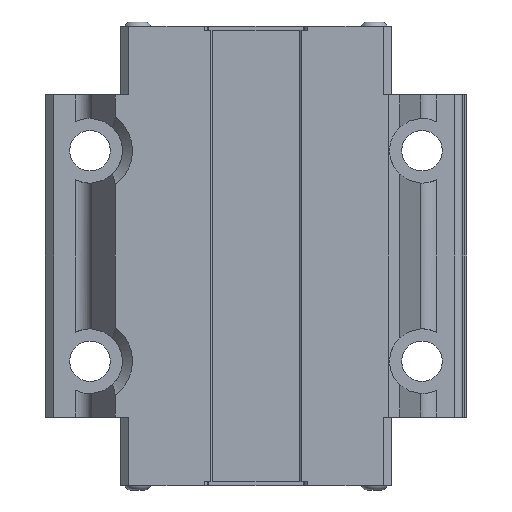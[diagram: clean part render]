
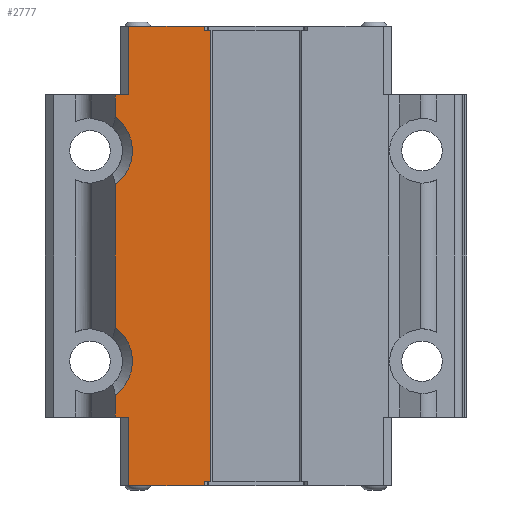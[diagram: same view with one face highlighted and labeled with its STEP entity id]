
A CAD part, front view. The second image highlights one B-rep face of the part: STEP entity #2777.
In plain terms, the highlighted planar face has unit normal (0, -1, 0).
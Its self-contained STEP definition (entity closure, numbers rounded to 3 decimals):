
#59 = VECTOR ( 'NONE', #6404, 1000. ) ;
#71 = LINE ( 'NONE', #2793, #7413 ) ;
#185 = VERTEX_POINT ( 'NONE', #3432 ) ;
#267 = EDGE_CURVE ( 'NONE', #6329, #1761, #4530, .T. ) ;
#330 = LINE ( 'NONE', #3591, #7676 ) ;
#334 = EDGE_CURVE ( 'NONE', #6631, #7025, #3877, .T. ) ;
#603 = CARTESIAN_POINT ( 'NONE',  ( 0., -19.5, 0. ) ) ;
#683 = ORIENTED_EDGE ( 'NONE', *, *, #3690, .T. ) ;
#745 = ORIENTED_EDGE ( 'NONE', *, *, #1464, .T. ) ;
#753 = VERTEX_POINT ( 'NONE', #3155 ) ;
#796 = DIRECTION ( 'NONE',  ( 0., 0., 1. ) ) ;
#867 = ORIENTED_EDGE ( 'NONE', *, *, #8721, .T. ) ;
#877 = VECTOR ( 'NONE', #5460, 1000. ) ;
#883 = DIRECTION ( 'NONE',  ( -1., 0., 0. ) ) ;
#936 = ORIENTED_EDGE ( 'NONE', *, *, #9085, .T. ) ;
#994 = CARTESIAN_POINT ( 'NONE',  ( -17.366, -19.5, 0. ) ) ;
#1066 = LINE ( 'NONE', #5171, #6529 ) ;
#1092 = DIRECTION ( 'NONE',  ( 0., 0., -1. ) ) ;
#1137 = CARTESIAN_POINT ( 'NONE',  ( -6.407, -19.5, 47.8 ) ) ;
#1156 = VERTEX_POINT ( 'NONE', #5136 ) ;
#1219 = CARTESIAN_POINT ( 'NONE',  ( -20.5, -19.5, 32.9 ) ) ;
#1277 = VECTOR ( 'NONE', #1092, 1000. ) ;
#1313 = DIRECTION ( 'NONE',  ( 0., -1., 0. ) ) ;
#1323 = VECTOR ( 'NONE', #7440, 1000. ) ;
#1391 = DIRECTION ( 'NONE',  ( 0., 0., 1. ) ) ;
#1422 = ORIENTED_EDGE ( 'NONE', *, *, #4119, .T. ) ;
#1427 = AXIS2_PLACEMENT_3D ( 'NONE', #603, #1313, #6272 ) ;
#1444 = VERTEX_POINT ( 'NONE', #6417 ) ;
#1464 = EDGE_CURVE ( 'NONE', #7237, #6476, #71, .T. ) ;
#1566 = LINE ( 'NONE', #7758, #7018 ) ;
#1592 = EDGE_CURVE ( 'NONE', #7237, #7518, #1066, .T. ) ;
#1633 = CIRCLE ( 'NONE', #6911, 5.232 ) ;
#1658 = LINE ( 'NONE', #4376, #3363 ) ;
#1675 = CIRCLE ( 'NONE', #3151, 5.232 ) ;
#1686 = DIRECTION ( 'NONE',  ( 0., 0., 1. ) ) ;
#1761 = VERTEX_POINT ( 'NONE', #6820 ) ;
#1789 = EDGE_CURVE ( 'NONE', #753, #1444, #1633, .T. ) ;
#1904 = DIRECTION ( 'NONE',  ( 1., 0., 0. ) ) ;
#1951 = DIRECTION ( 'NONE',  ( 0., 0., -1. ) ) ;
#2055 = DIRECTION ( 'NONE',  ( 0., 0., 1. ) ) ;
#2127 = ORIENTED_EDGE ( 'NONE', *, *, #5336, .F. ) ;
#2185 = DIRECTION ( 'NONE',  ( 0., 0., -1. ) ) ;
#2388 = FACE_OUTER_BOUND ( 'NONE', #7394, .T. ) ;
#2475 = CARTESIAN_POINT ( 'NONE',  ( -6.407, -19.5, 48.3 ) ) ;
#2499 = DIRECTION ( 'NONE',  ( 0., 0., 1. ) ) ;
#2640 = CARTESIAN_POINT ( 'NONE',  ( -15.7, -19.5, 48.3 ) ) ;
#2777 = ADVANCED_FACE ( 'NONE', ( #2388 ), #4870, .T. ) ;
#2793 = CARTESIAN_POINT ( 'NONE',  ( -5.601, -19.5, -8. ) ) ;
#2831 = CARTESIAN_POINT ( 'NONE',  ( 16.7, -19.5, 48.3 ) ) ;
#3144 = VECTOR ( 'NONE', #2499, 1000. ) ;
#3151 = AXIS2_PLACEMENT_3D ( 'NONE', #4194, #9129, #4885 ) ;
#3155 = CARTESIAN_POINT ( 'NONE',  ( -17.366, -19.5, 37.09 ) ) ;
#3217 = LINE ( 'NONE', #5357, #1277 ) ;
#3225 = CARTESIAN_POINT ( 'NONE',  ( -16.7, -19.5, -8.5 ) ) ;
#3243 = ORIENTED_EDGE ( 'NONE', *, *, #334, .T. ) ;
#3252 = LINE ( 'NONE', #3225, #1323 ) ;
#3363 = VECTOR ( 'NONE', #796, 1000. ) ;
#3370 = CARTESIAN_POINT ( 'NONE',  ( -6.407, -19.5, -8. ) ) ;
#3432 = CARTESIAN_POINT ( 'NONE',  ( -15.7, -19.5, -8.5 ) ) ;
#3536 = CARTESIAN_POINT ( 'NONE',  ( -17.366, -19.5, 0. ) ) ;
#3591 = CARTESIAN_POINT ( 'NONE',  ( -6.407, -19.5, -8. ) ) ;
#3608 = CARTESIAN_POINT ( 'NONE',  ( -15.7, -19.5, 39.8 ) ) ;
#3690 = EDGE_CURVE ( 'NONE', #1156, #7518, #330, .T. ) ;
#3791 = CARTESIAN_POINT ( 'NONE',  ( -15.7, -19.5, 0. ) ) ;
#3877 = LINE ( 'NONE', #6623, #59 ) ;
#4021 = ORIENTED_EDGE ( 'NONE', *, *, #1592, .F. ) ;
#4092 = CARTESIAN_POINT ( 'NONE',  ( -5.601, -19.5, 47.8 ) ) ;
#4119 = EDGE_CURVE ( 'NONE', #8356, #7619, #1675, .T. ) ;
#4194 = CARTESIAN_POINT ( 'NONE',  ( -20.5, -19.5, 6.9 ) ) ;
#4295 = ORIENTED_EDGE ( 'NONE', *, *, #7356, .F. ) ;
#4346 = ORIENTED_EDGE ( 'NONE', *, *, #1789, .T. ) ;
#4376 = CARTESIAN_POINT ( 'NONE',  ( -17.366, -19.5, 0. ) ) ;
#4419 = EDGE_CURVE ( 'NONE', #1156, #185, #3252, .T. ) ;
#4469 = LINE ( 'NONE', #4760, #877 ) ;
#4530 = LINE ( 'NONE', #2475, #8059 ) ;
#4704 = ORIENTED_EDGE ( 'NONE', *, *, #7086, .F. ) ;
#4745 = EDGE_CURVE ( 'NONE', #8356, #1444, #1566, .T. ) ;
#4760 = CARTESIAN_POINT ( 'NONE',  ( -26., -19.5, 0. ) ) ;
#4870 = PLANE ( 'NONE',  #1427 ) ;
#4885 = DIRECTION ( 'NONE',  ( 0., 0., -1. ) ) ;
#4895 = CARTESIAN_POINT ( 'NONE',  ( -17.366, -19.5, 11.09 ) ) ;
#5054 = VERTEX_POINT ( 'NONE', #3536 ) ;
#5136 = CARTESIAN_POINT ( 'NONE',  ( -6.407, -19.5, -8.5 ) ) ;
#5152 = CARTESIAN_POINT ( 'NONE',  ( -5.601, -19.5, -8. ) ) ;
#5171 = CARTESIAN_POINT ( 'NONE',  ( 6., -19.5, -8. ) ) ;
#5336 = EDGE_CURVE ( 'NONE', #6329, #6476, #8200, .T. ) ;
#5357 = CARTESIAN_POINT ( 'NONE',  ( -15.7, -19.5, 39.8 ) ) ;
#5370 = EDGE_CURVE ( 'NONE', #5054, #7921, #4469, .T. ) ;
#5427 = CARTESIAN_POINT ( 'NONE',  ( -6., -19.5, 47.8 ) ) ;
#5460 = DIRECTION ( 'NONE',  ( 1., 0., 0. ) ) ;
#6177 = DIRECTION ( 'NONE',  ( 0., 1., 0. ) ) ;
#6272 = DIRECTION ( 'NONE',  ( 0., 0., -1. ) ) ;
#6315 = VECTOR ( 'NONE', #1904, 1000. ) ;
#6329 = VERTEX_POINT ( 'NONE', #1137 ) ;
#6355 = ORIENTED_EDGE ( 'NONE', *, *, #267, .T. ) ;
#6404 = DIRECTION ( 'NONE',  ( -1., 0., 0. ) ) ;
#6417 = CARTESIAN_POINT ( 'NONE',  ( -17.366, -19.5, 28.71 ) ) ;
#6476 = VERTEX_POINT ( 'NONE', #4092 ) ;
#6529 = VECTOR ( 'NONE', #883, 1000. ) ;
#6545 = LINE ( 'NONE', #2831, #6767 ) ;
#6623 = CARTESIAN_POINT ( 'NONE',  ( 26., -19.5, 39.8 ) ) ;
#6631 = VERTEX_POINT ( 'NONE', #3608 ) ;
#6752 = EDGE_CURVE ( 'NONE', #5054, #7619, #1658, .T. ) ;
#6767 = VECTOR ( 'NONE', #7739, 1000. ) ;
#6820 = CARTESIAN_POINT ( 'NONE',  ( -6.407, -19.5, 48.3 ) ) ;
#6911 = AXIS2_PLACEMENT_3D ( 'NONE', #1219, #6177, #1951 ) ;
#7018 = VECTOR ( 'NONE', #1391, 1000. ) ;
#7025 = VERTEX_POINT ( 'NONE', #7436 ) ;
#7086 = EDGE_CURVE ( 'NONE', #8531, #1761, #6545, .T. ) ;
#7237 = VERTEX_POINT ( 'NONE', #5152 ) ;
#7295 = VECTOR ( 'NONE', #2185, 1000. ) ;
#7356 = EDGE_CURVE ( 'NONE', #753, #7025, #8759, .T. ) ;
#7394 = EDGE_LOOP ( 'NONE', ( #8252, #1422, #8620, #8040, #867, #7719, #683, #4021, #745, #2127, #6355, #4704, #936, #3243, #4295, #4346 ) ) ;
#7413 = VECTOR ( 'NONE', #2055, 1000. ) ;
#7436 = CARTESIAN_POINT ( 'NONE',  ( -17.366, -19.5, 39.8 ) ) ;
#7440 = DIRECTION ( 'NONE',  ( -1., 0., 0. ) ) ;
#7498 = LINE ( 'NONE', #7843, #7295 ) ;
#7518 = VERTEX_POINT ( 'NONE', #3370 ) ;
#7619 = VERTEX_POINT ( 'NONE', #9195 ) ;
#7676 = VECTOR ( 'NONE', #9234, 1000. ) ;
#7719 = ORIENTED_EDGE ( 'NONE', *, *, #4419, .F. ) ;
#7739 = DIRECTION ( 'NONE',  ( 1., 0., 0. ) ) ;
#7758 = CARTESIAN_POINT ( 'NONE',  ( -17.366, -19.5, 0. ) ) ;
#7843 = CARTESIAN_POINT ( 'NONE',  ( -15.7, -19.5, -8.5 ) ) ;
#7921 = VERTEX_POINT ( 'NONE', #3791 ) ;
#8040 = ORIENTED_EDGE ( 'NONE', *, *, #5370, .T. ) ;
#8059 = VECTOR ( 'NONE', #1686, 1000. ) ;
#8200 = LINE ( 'NONE', #5427, #6315 ) ;
#8252 = ORIENTED_EDGE ( 'NONE', *, *, #4745, .F. ) ;
#8356 = VERTEX_POINT ( 'NONE', #4895 ) ;
#8531 = VERTEX_POINT ( 'NONE', #2640 ) ;
#8620 = ORIENTED_EDGE ( 'NONE', *, *, #6752, .F. ) ;
#8721 = EDGE_CURVE ( 'NONE', #7921, #185, #7498, .T. ) ;
#8759 = LINE ( 'NONE', #994, #3144 ) ;
#9085 = EDGE_CURVE ( 'NONE', #8531, #6631, #3217, .T. ) ;
#9129 = DIRECTION ( 'NONE',  ( 0., 1., 0. ) ) ;
#9195 = CARTESIAN_POINT ( 'NONE',  ( -17.366, -19.5, 2.71 ) ) ;
#9234 = DIRECTION ( 'NONE',  ( 0., 0., 1. ) ) ;
